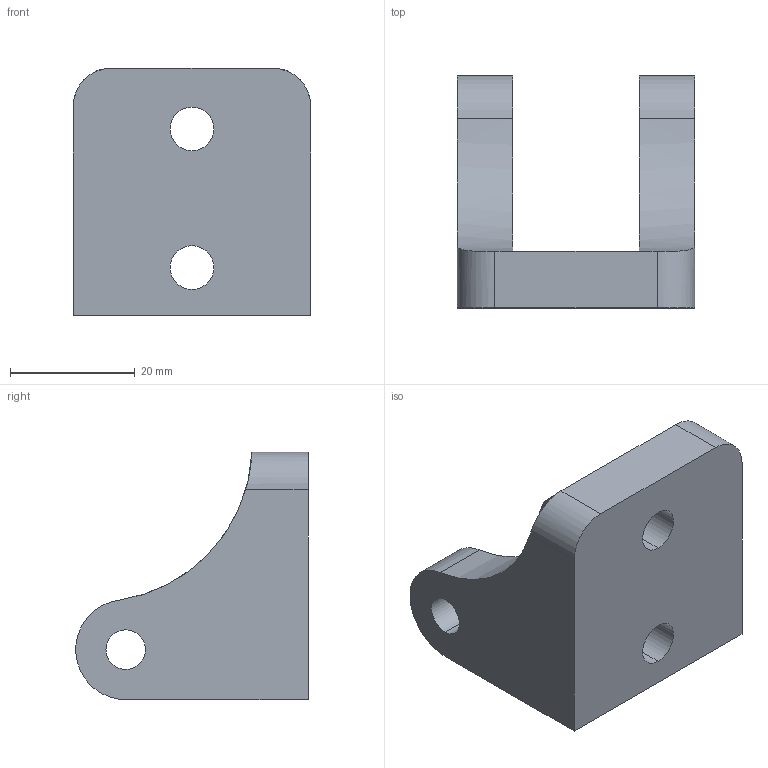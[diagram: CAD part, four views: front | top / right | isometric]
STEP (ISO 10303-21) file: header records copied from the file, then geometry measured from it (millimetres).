
FILE_DESCRIPTION (( 'STEP AP214' ), '1' );
FILE_NAME ('MMP LA3 Bracket.STEP', '2020-04-14T13:48:59', ( '' ), ( '' ), 'SwSTEP 2.0', 'SolidWorks 2017', '' );
FILE_SCHEMA (( 'AUTOMOTIVE_DESIGN' ));
Length unit declared in the file: inch
Products named in the file (1): MMP LA3 Bracket
Bounding box: 38 x 37.18 x 39.6 mm (x, y, z)
Volume: 21877.1 mm3; surface area: 7689.3 mm2
Topology: 1 solids, 1 shells, 22 faces, 58 edges, 38 vertices
Faces by surface type: cylinder 14, plane 8
Entity records: 788 total; most frequent: CARTESIAN_POINT 163, DIRECTION 128, ORIENTED_EDGE 116, EDGE_CURVE 58, AXIS2_PLACEMENT_3D 49, VERTEX_POINT 38, LINE 30, EDGE_LOOP 30
